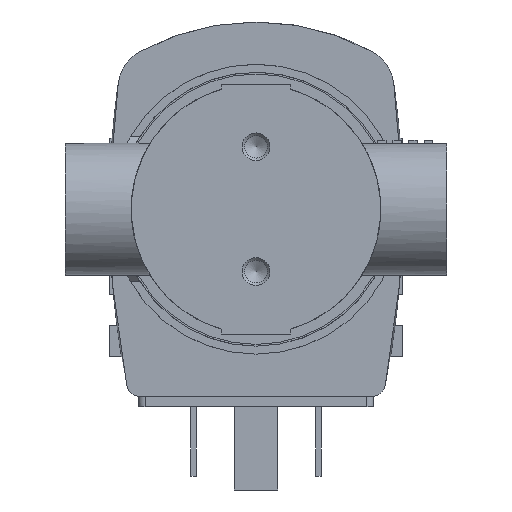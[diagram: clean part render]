
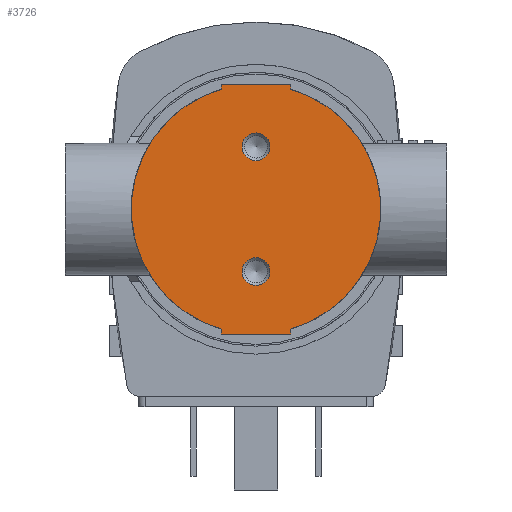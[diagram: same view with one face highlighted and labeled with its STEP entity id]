
A CAD part, front view. The second image highlights one B-rep face of the part: STEP entity #3726.
In plain terms, the highlighted planar face has unit normal (0, -1, 0).
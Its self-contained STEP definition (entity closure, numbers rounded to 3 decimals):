
#100=PLANE('',#3948);
#261=LINE('',#5213,#482);
#262=LINE('',#5215,#483);
#263=LINE('',#5217,#484);
#264=LINE('',#5218,#485);
#265=LINE('',#5220,#486);
#266=LINE('',#5222,#487);
#482=VECTOR('',#4361,1000.);
#483=VECTOR('',#4362,1000.);
#484=VECTOR('',#4363,1000.);
#485=VECTOR('',#4364,1000.);
#486=VECTOR('',#4365,1000.);
#487=VECTOR('',#4366,1000.);
#804=ORIENTED_EDGE('',*,*,#1482,.T.);
#805=ORIENTED_EDGE('',*,*,#1483,.T.);
#806=ORIENTED_EDGE('',*,*,#1385,.T.);
#807=ORIENTED_EDGE('',*,*,#1484,.F.);
#808=ORIENTED_EDGE('',*,*,#1485,.F.);
#809=ORIENTED_EDGE('',*,*,#1486,.T.);
#810=ORIENTED_EDGE('',*,*,#1390,.T.);
#811=ORIENTED_EDGE('',*,*,#1487,.T.);
#812=ORIENTED_EDGE('',*,*,#1488,.T.);
#813=ORIENTED_EDGE('',*,*,#1489,.F.);
#1385=EDGE_CURVE('',#1748,#1749,#1999,.T.);
#1390=EDGE_CURVE('',#1754,#1753,#2000,.T.);
#1482=EDGE_CURVE('',#1820,#1820,#2034,.T.);
#1483=EDGE_CURVE('',#1821,#1821,#2035,.T.);
#1484=EDGE_CURVE('',#1822,#1749,#261,.T.);
#1485=EDGE_CURVE('',#1823,#1822,#262,.T.);
#1486=EDGE_CURVE('',#1823,#1754,#263,.T.);
#1487=EDGE_CURVE('',#1753,#1824,#264,.T.);
#1488=EDGE_CURVE('',#1824,#1825,#265,.T.);
#1489=EDGE_CURVE('',#1748,#1825,#266,.T.);
#1748=VERTEX_POINT('',#4957);
#1749=VERTEX_POINT('',#4958);
#1753=VERTEX_POINT('',#4974);
#1754=VERTEX_POINT('',#4976);
#1820=VERTEX_POINT('',#5210);
#1821=VERTEX_POINT('',#5212);
#1822=VERTEX_POINT('',#5214);
#1823=VERTEX_POINT('',#5216);
#1824=VERTEX_POINT('',#5219);
#1825=VERTEX_POINT('',#5221);
#1999=CIRCLE('',#3874,18.);
#2000=CIRCLE('',#3875,18.);
#2034=CIRCLE('',#3949,2.);
#2035=CIRCLE('',#3950,2.);
#2128=EDGE_LOOP('',(#804));
#2129=EDGE_LOOP('',(#805));
#2130=EDGE_LOOP('',(#806,#807,#808,#809,#810,#811,#812,#813));
#2340=FACE_BOUND('',#2128,.T.);
#2341=FACE_BOUND('',#2129,.T.);
#2342=FACE_BOUND('',#2130,.T.);
#3726=ADVANCED_FACE('',(#2340,#2341,#2342),#100,.F.);
#3874=AXIS2_PLACEMENT_3D('',#4956,#4163,#4164);
#3875=AXIS2_PLACEMENT_3D('',#4975,#4167,#4168);
#3948=AXIS2_PLACEMENT_3D('',#5208,#4355,#4356);
#3949=AXIS2_PLACEMENT_3D('',#5209,#4357,#4358);
#3950=AXIS2_PLACEMENT_3D('',#5211,#4359,#4360);
#4163=DIRECTION('',(0.,-1.,0.));
#4164=DIRECTION('',(0.,0.,-1.));
#4167=DIRECTION('',(0.,-1.,0.));
#4168=DIRECTION('',(0.,0.,-1.));
#4355=DIRECTION('',(0.,1.,0.));
#4356=DIRECTION('',(0.,0.,1.));
#4357=DIRECTION('',(0.,1.,0.));
#4358=DIRECTION('',(0.,0.,1.));
#4359=DIRECTION('',(0.,1.,0.));
#4360=DIRECTION('',(0.,0.,1.));
#4361=DIRECTION('',(0.,0.,-1.));
#4362=DIRECTION('',(1.,0.,0.));
#4363=DIRECTION('',(0.,0.,-1.));
#4364=DIRECTION('',(0.,0.,-1.));
#4365=DIRECTION('',(1.,0.,0.));
#4366=DIRECTION('',(0.,0.,-1.));
#4956=CARTESIAN_POINT('',(0.,-10.,0.));
#4957=CARTESIAN_POINT('',(5.,-10.,-17.292));
#4958=CARTESIAN_POINT('',(5.,-10.,17.292));
#4974=CARTESIAN_POINT('',(-5.,-10.,-17.292));
#4975=CARTESIAN_POINT('',(0.,-10.,0.));
#4976=CARTESIAN_POINT('',(-5.,-10.,17.292));
#5208=CARTESIAN_POINT('',(18.,-10.,0.));
#5209=CARTESIAN_POINT('',(0.,-10.,-9.));
#5210=CARTESIAN_POINT('',(0.,-10.,-7.));
#5211=CARTESIAN_POINT('',(0.,-10.,9.));
#5212=CARTESIAN_POINT('',(0.,-10.,11.));
#5213=CARTESIAN_POINT('',(5.,-10.,18.));
#5214=CARTESIAN_POINT('',(5.,-10.,18.));
#5215=CARTESIAN_POINT('',(-5.,-10.,18.));
#5216=CARTESIAN_POINT('',(-5.,-10.,18.));
#5217=CARTESIAN_POINT('',(-5.,-10.,18.));
#5218=CARTESIAN_POINT('',(-5.,-10.,18.));
#5219=CARTESIAN_POINT('',(-5.,-10.,-18.));
#5220=CARTESIAN_POINT('',(-5.,-10.,-18.));
#5221=CARTESIAN_POINT('',(5.,-10.,-18.));
#5222=CARTESIAN_POINT('',(5.,-10.,18.));
